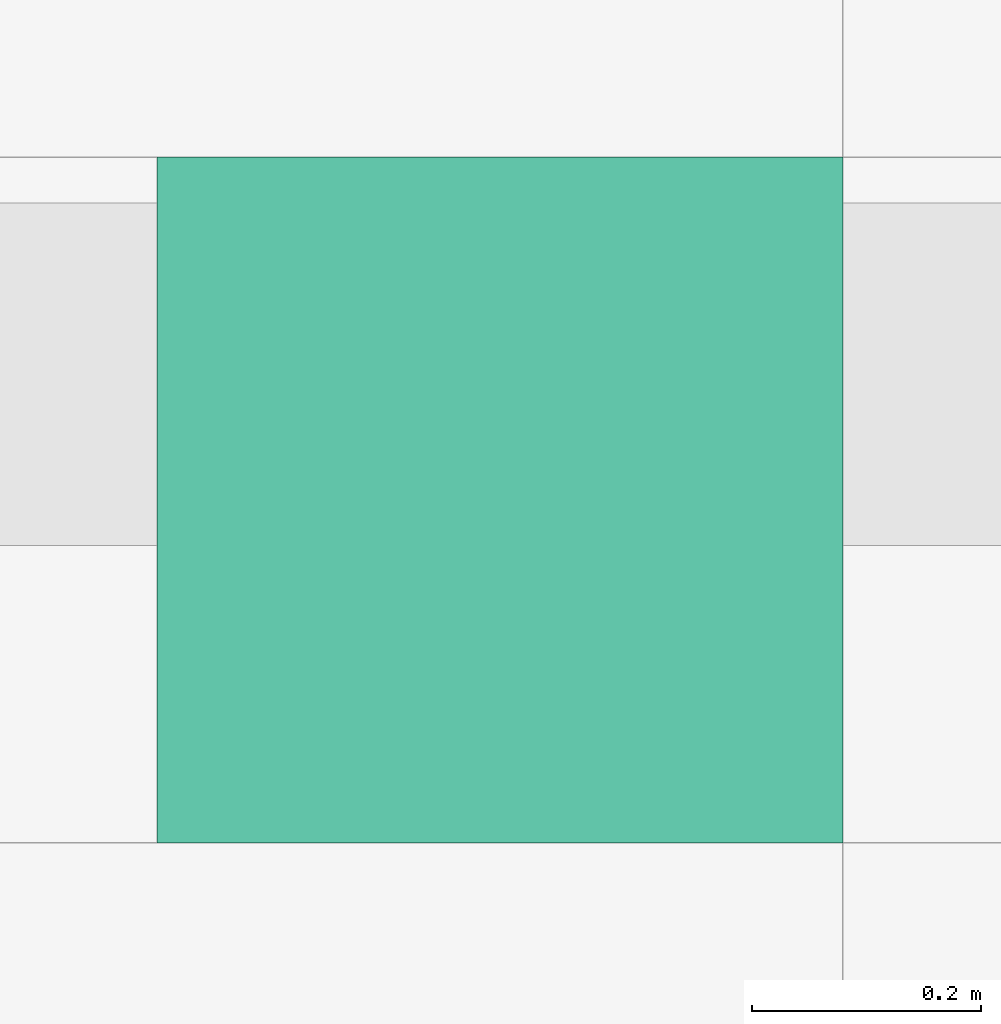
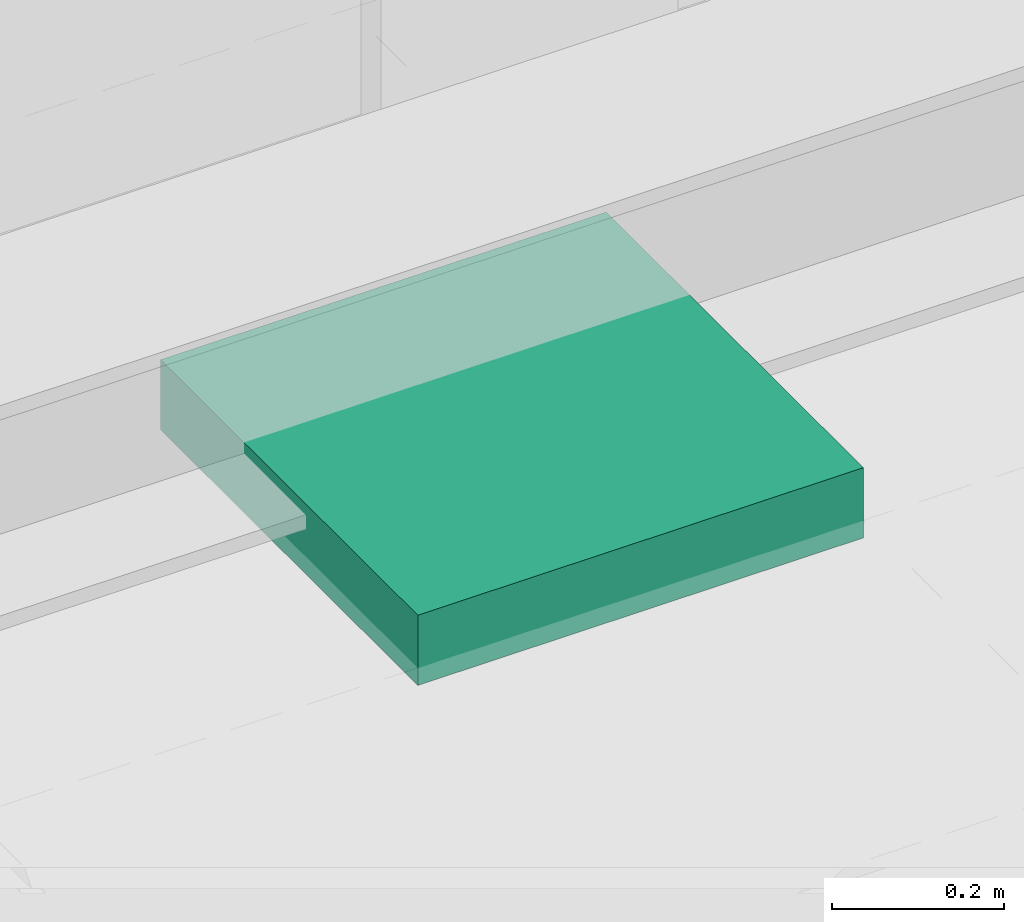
# One storey, part 237 of 347: 1 flow terminal.
"""IFC2X3 building model written with IfcOpenShell, lengths in millimetres."""

from ifc_helpers import new_model, entity, si_unit, converted_unit, derived_unit, money_unit, direction, frame, origin_with_axes, place, context, subcontext, project, spatial, open_shell, faceted_brep, surface_model, source, transform, mapped, type_object, type_shapes, element, save


model = new_model("IFC2X3")

# Units and contexts
model_context = context("Model", 3, precision=0.01, world=origin_with_axes(), true_north=direction((0.0, 1.0)))
plan_context = context("Plan", 3, precision=0.01, world=origin_with_axes(), true_north=direction((0.0, 1.0)))
body_context = subcontext(model_context, "Body", "Model", "MODEL_VIEW")
ifc_project = project(units=[si_unit("LENGTHUNIT", "METRE", prefix="MILLI"), si_unit("AREAUNIT", "SQUARE_METRE"), si_unit("VOLUMEUNIT", "CUBIC_METRE"), converted_unit("PLANEANGLEUNIT", "DEGREE", entity("IfcPlaneAngleMeasure", 0.0174532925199), si_unit("PLANEANGLEUNIT", "RADIAN"), dimensions=[0, 0, 0, 0, 0, 0, 0]), money_unit("EUR"), converted_unit("TIMEUNIT", "Year", entity("IfcTimeMeasure", 31556926.0), si_unit("TIMEUNIT", "SECOND"), dimensions=[0, 0, 1, 0, 0, 0, 0]), si_unit("MASSUNIT", "GRAM", prefix="KILO"), si_unit("THERMODYNAMICTEMPERATUREUNIT", "DEGREE_CELSIUS"), si_unit("LUMINOUSINTENSITYUNIT", "LUMEN"), si_unit("ENERGYUNIT", "JOULE", prefix="MEGA"), derived_unit("THERMALCONDUCTANCEUNIT", [(si_unit("POWERUNIT", "WATT"), 1), (si_unit("LENGTHUNIT", "METRE"), -1), (si_unit("THERMODYNAMICTEMPERATUREUNIT", "KELVIN"), -1)]), derived_unit("SPECIFICHEATCAPACITYUNIT", [(si_unit("ENERGYUNIT", "JOULE"), 1), (si_unit("MASSUNIT", "GRAM", prefix="KILO"), -1), (si_unit("THERMODYNAMICTEMPERATUREUNIT", "KELVIN"), -1)]), derived_unit("MASSDENSITYUNIT", [(si_unit("MASSUNIT", "GRAM", prefix="KILO"), 1), (si_unit("VOLUMEUNIT", "CUBIC_METRE"), -1)])], contexts=[model_context, plan_context])

# Site, building, storey
site_placement = place(None, origin_with_axes())
site = spatial("IfcSite", under=ifc_project, at=site_placement, Name="Site", CompositionType="ELEMENT")
building_placement = place(site_placement, origin_with_axes())
building = spatial("IfcBuilding", under=site, at=building_placement, Name="Naam gebouw", CompositionType="ELEMENT")
storey_placement = place(building_placement, origin_with_axes())
storey = spatial("IfcBuildingStorey", under=building, at=storey_placement, Name="begane grond", CompositionType="ELEMENT", Elevation=0.0)

# Flow terminal
lamp_type = type_object("IfcLampType", Name="TL plafond 25", PredefinedType="NOTDEFINED")
shared_shape = source(origin_with_axes(), body_context, "Body", "SurfaceModel", [
    faceted_brep([(0.0, 0.0, -100.0), (600.0, 0.0, -100.0), (600.0, 0.0, 0.0), (0.0, 0.0, 0.0), (0.0, 600.0, -100.0), (600.0, 600.0, -100.0), (40.0, 40.0, -100.0), (560.0, 40.0, -100.0), (560.0, 560.0, -100.0), (40.0, 560.0, -100.0), (600.0, 600.0, 0.0), (0.0, 600.0, 0.0), (40.0, 40.0, 0.0), (40.0, 560.0, 0.0), (560.0, 560.0, 0.0), (560.0, 40.0, 0.0)], [[[0, 1, 2, 3]], [[0, 4, 5, 1], [6, 7, 8, 9]], [[1, 5, 10, 2]], [[3, 2, 10, 11], [12, 13, 14, 15]], [[4, 0, 3, 11]], [[5, 4, 11, 10]], [[7, 6, 12, 15]], [[8, 7, 15, 14]], [[9, 8, 14, 13]], [[6, 9, 13, 12]]]),
    faceted_brep([(40.0, 40.0, -16.3333333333), (560.0, 40.0, -16.3333333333), (560.0, 40.0, 0.0), (40.0, 40.0, 0.0), (40.0, 560.0, -16.3333333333), (560.0, 560.0, -16.3333333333), (560.0, 560.0, 0.0), (40.0, 560.0, 0.0)], [[[0, 1, 2, 3]], [[0, 4, 5, 1]], [[1, 5, 6, 2]], [[3, 2, 6, 7]], [[4, 0, 3, 7]], [[5, 4, 7, 6]]]),
    surface_model("IfcShellBasedSurfaceModel", [(559.0, 41.0, -100.0), (40.0, 41.0, -100.0), (40.0, 559.0, -100.0), (559.0, 559.0, -100.0)], [open_shell([[[0, 1, 2, 3]]])]),
    faceted_brep([(40.0, 40.0, -100.0), (560.0, 40.0, -100.0), (560.0, 40.0, -60.0), (40.0, 40.0, -60.0), (40.0, 560.0, -100.0), (560.0, 560.0, -100.0), (41.0, 41.0, -100.0), (559.0, 41.0, -100.0), (559.0, 559.0, -100.0), (41.0, 559.0, -100.0), (560.0, 560.0, -60.0), (40.0, 560.0, -60.0), (41.0, 41.0, -60.0), (41.0, 559.0, -60.0), (559.0, 559.0, -60.0), (559.0, 41.0, -60.0)], [[[0, 1, 2, 3]], [[0, 4, 5, 1], [6, 7, 8, 9]], [[1, 5, 10, 2]], [[3, 2, 10, 11], [12, 13, 14, 15]], [[4, 0, 3, 11]], [[5, 4, 11, 10]], [[7, 6, 12, 15]], [[8, 7, 15, 14]], [[9, 8, 14, 13]], [[6, 9, 13, 12]]]),
    faceted_brep([(40.0, 144.0, -48.3333333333), (40.0, 149.740251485, -47.191526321), (560.0, 149.740251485, -47.191526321), (560.0, 144.0, -48.3333333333), (40.0, 138.259748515, -47.191526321), (40.0, 133.393398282, -43.9399350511), (40.0, 130.141807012, -39.0735848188), (40.0, 129.0, -33.3333333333), (40.0, 130.141807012, -27.5930818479), (40.0, 133.393398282, -22.7267316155), (40.0, 138.259748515, -19.4751403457), (40.0, 144.0, -18.3333333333), (40.0, 149.740251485, -19.4751403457), (40.0, 154.606601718, -22.7267316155), (40.0, 157.858192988, -27.5930818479), (40.0, 159.0, -33.3333333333), (40.0, 157.858192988, -39.0735848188), (40.0, 154.606601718, -43.9399350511), (40.0, 144.0, -46.3333333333), (40.0, 148.974884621, -45.343767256), (40.0, 153.192388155, -42.5257214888), (40.0, 156.010433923, -38.3082179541), (40.0, 157.0, -33.3333333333), (40.0, 156.010433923, -28.3584487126), (40.0, 153.192388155, -24.1409451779), (40.0, 148.974884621, -21.3228994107), (40.0, 144.0, -20.3333333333), (40.0, 139.025115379, -21.3228994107), (40.0, 134.807611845, -24.1409451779), (40.0, 131.989566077, -28.3584487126), (40.0, 131.0, -33.3333333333), (40.0, 131.989566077, -38.3082179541), (40.0, 134.807611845, -42.5257214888), (40.0, 139.025115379, -45.343767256), (560.0, 154.606601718, -43.9399350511), (560.0, 157.858192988, -39.0735848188), (560.0, 159.0, -33.3333333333), (560.0, 157.858192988, -27.5930818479), (560.0, 154.606601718, -22.7267316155), (560.0, 149.740251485, -19.4751403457), (560.0, 144.0, -18.3333333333), (560.0, 138.259748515, -19.4751403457), (560.0, 133.393398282, -22.7267316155), (560.0, 130.141807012, -27.5930818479), (560.0, 129.0, -33.3333333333), (560.0, 130.141807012, -39.0735848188), (560.0, 133.393398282, -43.9399350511), (560.0, 138.259748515, -47.191526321), (560.0, 144.0, -46.3333333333), (560.0, 139.025115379, -45.343767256), (560.0, 134.807611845, -42.5257214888), (560.0, 131.989566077, -38.3082179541), (560.0, 131.0, -33.3333333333), (560.0, 131.989566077, -28.3584487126), (560.0, 134.807611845, -24.1409451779), (560.0, 139.025115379, -21.3228994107), (560.0, 144.0, -20.3333333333), (560.0, 148.974884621, -21.3228994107), (560.0, 153.192388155, -24.1409451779), (560.0, 156.010433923, -28.3584487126), (560.0, 157.0, -33.3333333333), (560.0, 156.010433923, -38.3082179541), (560.0, 153.192388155, -42.5257214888), (560.0, 148.974884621, -45.343767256)], [[[0, 1, 2, 3]], [[0, 4, 5, 6, 7, 8, 9, 10, 11, 12, 13, 14, 15, 16, 17, 1], [18, 19, 20, 21, 22, 23, 24, 25, 26, 27, 28, 29, 30, 31, 32, 33]], [[1, 17, 34, 2]], [[3, 2, 34, 35, 36, 37, 38, 39, 40, 41, 42, 43, 44, 45, 46, 47], [48, 49, 50, 51, 52, 53, 54, 55, 56, 57, 58, 59, 60, 61, 62, 63]], [[4, 0, 3, 47]], [[5, 4, 47, 46]], [[6, 5, 46, 45]], [[7, 6, 45, 44]], [[8, 7, 44, 43]], [[9, 8, 43, 42]], [[10, 9, 42, 41]], [[11, 10, 41, 40]], [[12, 11, 40, 39]], [[13, 12, 39, 38]], [[14, 13, 38, 37]], [[15, 14, 37, 36]], [[16, 15, 36, 35]], [[17, 16, 35, 34]], [[19, 18, 48, 63]], [[20, 19, 63, 62]], [[21, 20, 62, 61]], [[22, 21, 61, 60]], [[23, 22, 60, 59]], [[24, 23, 59, 58]], [[25, 24, 58, 57]], [[26, 25, 57, 56]], [[27, 26, 56, 55]], [[28, 27, 55, 54]], [[29, 28, 54, 53]], [[30, 29, 53, 52]], [[31, 30, 52, 51]], [[32, 31, 51, 50]], [[33, 32, 50, 49]], [[18, 33, 49, 48]]]),
    faceted_brep([(40.0, 248.0, -48.3333333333), (40.0, 253.740251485, -47.191526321), (560.0, 253.740251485, -47.191526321), (560.0, 248.0, -48.3333333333), (40.0, 242.259748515, -47.191526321), (40.0, 237.393398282, -43.9399350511), (40.0, 234.141807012, -39.0735848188), (40.0, 233.0, -33.3333333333), (40.0, 234.141807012, -27.5930818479), (40.0, 237.393398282, -22.7267316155), (40.0, 242.259748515, -19.4751403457), (40.0, 248.0, -18.3333333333), (40.0, 253.740251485, -19.4751403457), (40.0, 258.606601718, -22.7267316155), (40.0, 261.858192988, -27.5930818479), (40.0, 263.0, -33.3333333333), (40.0, 261.858192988, -39.0735848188), (40.0, 258.606601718, -43.9399350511), (40.0, 248.0, -46.3333333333), (40.0, 252.974884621, -45.343767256), (40.0, 257.192388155, -42.5257214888), (40.0, 260.010433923, -38.3082179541), (40.0, 261.0, -33.3333333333), (40.0, 260.010433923, -28.3584487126), (40.0, 257.192388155, -24.1409451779), (40.0, 252.974884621, -21.3228994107), (40.0, 248.0, -20.3333333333), (40.0, 243.025115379, -21.3228994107), (40.0, 238.807611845, -24.1409451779), (40.0, 235.989566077, -28.3584487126), (40.0, 235.0, -33.3333333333), (40.0, 235.989566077, -38.3082179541), (40.0, 238.807611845, -42.5257214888), (40.0, 243.025115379, -45.343767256), (560.0, 258.606601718, -43.9399350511), (560.0, 261.858192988, -39.0735848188), (560.0, 263.0, -33.3333333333), (560.0, 261.858192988, -27.5930818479), (560.0, 258.606601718, -22.7267316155), (560.0, 253.740251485, -19.4751403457), (560.0, 248.0, -18.3333333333), (560.0, 242.259748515, -19.4751403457), (560.0, 237.393398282, -22.7267316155), (560.0, 234.141807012, -27.5930818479), (560.0, 233.0, -33.3333333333), (560.0, 234.141807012, -39.0735848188), (560.0, 237.393398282, -43.9399350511), (560.0, 242.259748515, -47.191526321), (560.0, 248.0, -46.3333333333), (560.0, 243.025115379, -45.343767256), (560.0, 238.807611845, -42.5257214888), (560.0, 235.989566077, -38.3082179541), (560.0, 235.0, -33.3333333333), (560.0, 235.989566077, -28.3584487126), (560.0, 238.807611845, -24.1409451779), (560.0, 243.025115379, -21.3228994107), (560.0, 248.0, -20.3333333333), (560.0, 252.974884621, -21.3228994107), (560.0, 257.192388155, -24.1409451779), (560.0, 260.010433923, -28.3584487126), (560.0, 261.0, -33.3333333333), (560.0, 260.010433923, -38.3082179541), (560.0, 257.192388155, -42.5257214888), (560.0, 252.974884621, -45.343767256)], [[[0, 1, 2, 3]], [[0, 4, 5, 6, 7, 8, 9, 10, 11, 12, 13, 14, 15, 16, 17, 1], [18, 19, 20, 21, 22, 23, 24, 25, 26, 27, 28, 29, 30, 31, 32, 33]], [[1, 17, 34, 2]], [[3, 2, 34, 35, 36, 37, 38, 39, 40, 41, 42, 43, 44, 45, 46, 47], [48, 49, 50, 51, 52, 53, 54, 55, 56, 57, 58, 59, 60, 61, 62, 63]], [[4, 0, 3, 47]], [[5, 4, 47, 46]], [[6, 5, 46, 45]], [[7, 6, 45, 44]], [[8, 7, 44, 43]], [[9, 8, 43, 42]], [[10, 9, 42, 41]], [[11, 10, 41, 40]], [[12, 11, 40, 39]], [[13, 12, 39, 38]], [[14, 13, 38, 37]], [[15, 14, 37, 36]], [[16, 15, 36, 35]], [[17, 16, 35, 34]], [[19, 18, 48, 63]], [[20, 19, 63, 62]], [[21, 20, 62, 61]], [[22, 21, 61, 60]], [[23, 22, 60, 59]], [[24, 23, 59, 58]], [[25, 24, 58, 57]], [[26, 25, 57, 56]], [[27, 26, 56, 55]], [[28, 27, 55, 54]], [[29, 28, 54, 53]], [[30, 29, 53, 52]], [[31, 30, 52, 51]], [[32, 31, 51, 50]], [[33, 32, 50, 49]], [[18, 33, 49, 48]]]),
    faceted_brep([(40.0, 352.0, -48.3333333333), (40.0, 357.740251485, -47.191526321), (560.0, 357.740251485, -47.191526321), (560.0, 352.0, -48.3333333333), (40.0, 346.259748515, -47.191526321), (40.0, 341.393398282, -43.9399350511), (40.0, 338.141807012, -39.0735848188), (40.0, 337.0, -33.3333333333), (40.0, 338.141807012, -27.5930818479), (40.0, 341.393398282, -22.7267316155), (40.0, 346.259748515, -19.4751403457), (40.0, 352.0, -18.3333333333), (40.0, 357.740251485, -19.4751403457), (40.0, 362.606601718, -22.7267316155), (40.0, 365.858192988, -27.5930818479), (40.0, 367.0, -33.3333333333), (40.0, 365.858192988, -39.0735848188), (40.0, 362.606601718, -43.9399350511), (40.0, 352.0, -46.3333333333), (40.0, 356.974884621, -45.343767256), (40.0, 361.192388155, -42.5257214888), (40.0, 364.010433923, -38.3082179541), (40.0, 365.0, -33.3333333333), (40.0, 364.010433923, -28.3584487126), (40.0, 361.192388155, -24.1409451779), (40.0, 356.974884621, -21.3228994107), (40.0, 352.0, -20.3333333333), (40.0, 347.025115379, -21.3228994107), (40.0, 342.807611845, -24.1409451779), (40.0, 339.989566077, -28.3584487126), (40.0, 339.0, -33.3333333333), (40.0, 339.989566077, -38.3082179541), (40.0, 342.807611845, -42.5257214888), (40.0, 347.025115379, -45.343767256), (560.0, 362.606601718, -43.9399350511), (560.0, 365.858192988, -39.0735848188), (560.0, 367.0, -33.3333333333), (560.0, 365.858192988, -27.5930818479), (560.0, 362.606601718, -22.7267316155), (560.0, 357.740251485, -19.4751403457), (560.0, 352.0, -18.3333333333), (560.0, 346.259748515, -19.4751403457), (560.0, 341.393398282, -22.7267316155), (560.0, 338.141807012, -27.5930818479), (560.0, 337.0, -33.3333333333), (560.0, 338.141807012, -39.0735848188), (560.0, 341.393398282, -43.9399350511), (560.0, 346.259748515, -47.191526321), (560.0, 352.0, -46.3333333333), (560.0, 347.025115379, -45.343767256), (560.0, 342.807611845, -42.5257214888), (560.0, 339.989566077, -38.3082179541), (560.0, 339.0, -33.3333333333), (560.0, 339.989566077, -28.3584487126), (560.0, 342.807611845, -24.1409451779), (560.0, 347.025115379, -21.3228994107), (560.0, 352.0, -20.3333333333), (560.0, 356.974884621, -21.3228994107), (560.0, 361.192388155, -24.1409451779), (560.0, 364.010433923, -28.3584487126), (560.0, 365.0, -33.3333333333), (560.0, 364.010433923, -38.3082179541), (560.0, 361.192388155, -42.5257214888), (560.0, 356.974884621, -45.343767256)], [[[0, 1, 2, 3]], [[0, 4, 5, 6, 7, 8, 9, 10, 11, 12, 13, 14, 15, 16, 17, 1], [18, 19, 20, 21, 22, 23, 24, 25, 26, 27, 28, 29, 30, 31, 32, 33]], [[1, 17, 34, 2]], [[3, 2, 34, 35, 36, 37, 38, 39, 40, 41, 42, 43, 44, 45, 46, 47], [48, 49, 50, 51, 52, 53, 54, 55, 56, 57, 58, 59, 60, 61, 62, 63]], [[4, 0, 3, 47]], [[5, 4, 47, 46]], [[6, 5, 46, 45]], [[7, 6, 45, 44]], [[8, 7, 44, 43]], [[9, 8, 43, 42]], [[10, 9, 42, 41]], [[11, 10, 41, 40]], [[12, 11, 40, 39]], [[13, 12, 39, 38]], [[14, 13, 38, 37]], [[15, 14, 37, 36]], [[16, 15, 36, 35]], [[17, 16, 35, 34]], [[19, 18, 48, 63]], [[20, 19, 63, 62]], [[21, 20, 62, 61]], [[22, 21, 61, 60]], [[23, 22, 60, 59]], [[24, 23, 59, 58]], [[25, 24, 58, 57]], [[26, 25, 57, 56]], [[27, 26, 56, 55]], [[28, 27, 55, 54]], [[29, 28, 54, 53]], [[30, 29, 53, 52]], [[31, 30, 52, 51]], [[32, 31, 51, 50]], [[33, 32, 50, 49]], [[18, 33, 49, 48]]]),
    faceted_brep([(40.0, 456.0, -48.3333333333), (40.0, 461.740251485, -47.191526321), (560.0, 461.740251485, -47.191526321), (560.0, 456.0, -48.3333333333), (40.0, 450.259748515, -47.191526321), (40.0, 445.393398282, -43.9399350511), (40.0, 442.141807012, -39.0735848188), (40.0, 441.0, -33.3333333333), (40.0, 442.141807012, -27.5930818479), (40.0, 445.393398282, -22.7267316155), (40.0, 450.259748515, -19.4751403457), (40.0, 456.0, -18.3333333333), (40.0, 461.740251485, -19.4751403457), (40.0, 466.606601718, -22.7267316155), (40.0, 469.858192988, -27.5930818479), (40.0, 471.0, -33.3333333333), (40.0, 469.858192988, -39.0735848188), (40.0, 466.606601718, -43.9399350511), (40.0, 456.0, -46.3333333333), (40.0, 460.974884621, -45.343767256), (40.0, 465.192388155, -42.5257214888), (40.0, 468.010433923, -38.3082179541), (40.0, 469.0, -33.3333333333), (40.0, 468.010433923, -28.3584487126), (40.0, 465.192388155, -24.1409451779), (40.0, 460.974884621, -21.3228994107), (40.0, 456.0, -20.3333333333), (40.0, 451.025115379, -21.3228994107), (40.0, 446.807611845, -24.1409451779), (40.0, 443.989566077, -28.3584487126), (40.0, 443.0, -33.3333333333), (40.0, 443.989566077, -38.3082179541), (40.0, 446.807611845, -42.5257214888), (40.0, 451.025115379, -45.343767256), (560.0, 466.606601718, -43.9399350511), (560.0, 469.858192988, -39.0735848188), (560.0, 471.0, -33.3333333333), (560.0, 469.858192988, -27.5930818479), (560.0, 466.606601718, -22.7267316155), (560.0, 461.740251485, -19.4751403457), (560.0, 456.0, -18.3333333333), (560.0, 450.259748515, -19.4751403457), (560.0, 445.393398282, -22.7267316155), (560.0, 442.141807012, -27.5930818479), (560.0, 441.0, -33.3333333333), (560.0, 442.141807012, -39.0735848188), (560.0, 445.393398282, -43.9399350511), (560.0, 450.259748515, -47.191526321), (560.0, 456.0, -46.3333333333), (560.0, 451.025115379, -45.343767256), (560.0, 446.807611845, -42.5257214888), (560.0, 443.989566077, -38.3082179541), (560.0, 443.0, -33.3333333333), (560.0, 443.989566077, -28.3584487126), (560.0, 446.807611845, -24.1409451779), (560.0, 451.025115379, -21.3228994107), (560.0, 456.0, -20.3333333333), (560.0, 460.974884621, -21.3228994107), (560.0, 465.192388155, -24.1409451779), (560.0, 468.010433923, -28.3584487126), (560.0, 469.0, -33.3333333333), (560.0, 468.010433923, -38.3082179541), (560.0, 465.192388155, -42.5257214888), (560.0, 460.974884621, -45.343767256)], [[[0, 1, 2, 3]], [[0, 4, 5, 6, 7, 8, 9, 10, 11, 12, 13, 14, 15, 16, 17, 1], [18, 19, 20, 21, 22, 23, 24, 25, 26, 27, 28, 29, 30, 31, 32, 33]], [[1, 17, 34, 2]], [[3, 2, 34, 35, 36, 37, 38, 39, 40, 41, 42, 43, 44, 45, 46, 47], [48, 49, 50, 51, 52, 53, 54, 55, 56, 57, 58, 59, 60, 61, 62, 63]], [[4, 0, 3, 47]], [[5, 4, 47, 46]], [[6, 5, 46, 45]], [[7, 6, 45, 44]], [[8, 7, 44, 43]], [[9, 8, 43, 42]], [[10, 9, 42, 41]], [[11, 10, 41, 40]], [[12, 11, 40, 39]], [[13, 12, 39, 38]], [[14, 13, 38, 37]], [[15, 14, 37, 36]], [[16, 15, 36, 35]], [[17, 16, 35, 34]], [[19, 18, 48, 63]], [[20, 19, 63, 62]], [[21, 20, 62, 61]], [[22, 21, 61, 60]], [[23, 22, 60, 59]], [[24, 23, 59, 58]], [[25, 24, 58, 57]], [[26, 25, 57, 56]], [[27, 26, 56, 55]], [[28, 27, 55, 54]], [[29, 28, 54, 53]], [[30, 29, 53, 52]], [[31, 30, 52, 51]], [[32, 31, 51, 50]], [[33, 32, 50, 49]], [[18, 33, 49, 48]]]),
])
type_shapes(lamp_type, [shared_shape])
flow_terminal_placement = place(storey_placement, frame((39475.0006884, 11715.0095364, 3595.0), z_axis=(0.0, 0.0, 1.0), x_axis=(1.0, 0.0, 0.0)))
element("IfcFlowTerminal", 1, at=flow_terminal_placement, inside=storey, type_object=lamp_type, Name="63_Lamp-x", ObjectType="Lamp", context=body_context, shape_type="MappedRepresentation", body=[
    mapped(shared_shape, transform((0.0, 0.0, 0.0))),
])

save(model, "model.ifc")
